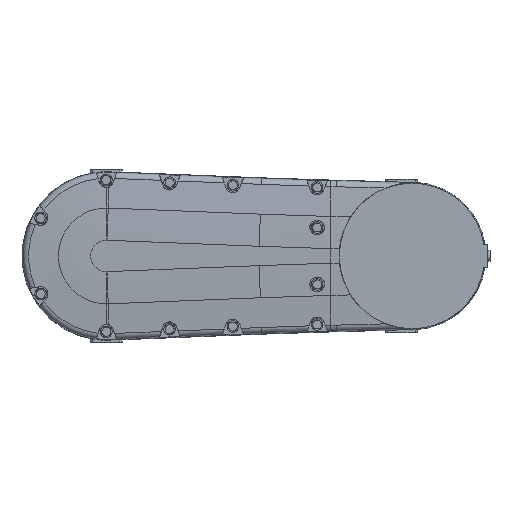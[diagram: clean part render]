
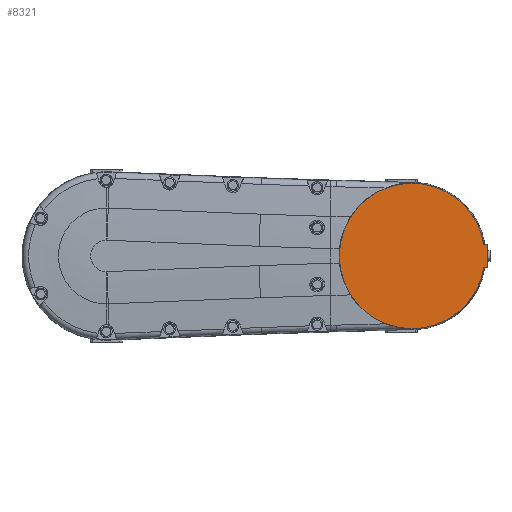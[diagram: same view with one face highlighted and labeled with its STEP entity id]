
A CAD part, top view. The second image highlights one B-rep face of the part: STEP entity #8321.
In plain terms, the highlighted planar face has unit normal (0, 0, 1).
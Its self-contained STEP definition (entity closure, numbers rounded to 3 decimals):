
#169 = AXIS2_PLACEMENT_3D ( 'NONE', #1559, #15618, #2852 ) ;
#866 = ORIENTED_EDGE ( 'NONE', *, *, #3368, .F. ) ;
#1349 = EDGE_CURVE ( 'NONE', #1828, #16387, #5070, .T. ) ;
#1559 = CARTESIAN_POINT ( 'NONE',  ( 290., 0., 278.5 ) ) ;
#1828 = VERTEX_POINT ( 'NONE', #10200 ) ;
#2299 = ORIENTED_EDGE ( 'NONE', *, *, #11760, .T. ) ;
#2387 = VERTEX_POINT ( 'NONE', #5528 ) ;
#2455 = CARTESIAN_POINT ( 'NONE',  ( 0.536, -20.478, 278.5 ) ) ;
#2566 = DIRECTION ( 'NONE',  ( 0., -1., 0. ) ) ;
#2852 = DIRECTION ( 'NONE',  ( 0., -1., 0. ) ) ;
#3368 = EDGE_CURVE ( 'NONE', #16387, #2387, #18335, .T. ) ;
#4242 = CARTESIAN_POINT ( 'NONE',  ( 290., 0., 278.5 ) ) ;
#4337 = DIRECTION ( 'NONE',  ( 0., 0., 1. ) ) ;
#4461 = DIRECTION ( 'NONE',  ( 1., 0., 0. ) ) ;
#4964 = EDGE_CURVE ( 'NONE', #1828, #18220, #17898, .T. ) ;
#5070 = LINE ( 'NONE', #9594, #10790 ) ;
#5528 = CARTESIAN_POINT ( 'NONE',  ( 362., -11.013, 278.5 ) ) ;
#5801 = FACE_OUTER_BOUND ( 'NONE', #10806, .T. ) ;
#7726 = VERTEX_POINT ( 'NONE', #7773 ) ;
#7773 = CARTESIAN_POINT ( 'NONE',  ( 358.104, -11.115, 278.5 ) ) ;
#8226 = CARTESIAN_POINT ( 'NONE',  ( 362., 0., 278.5 ) ) ;
#8321 = ADVANCED_FACE ( 'NONE', ( #5801 ), #16006, .T. ) ;
#8778 = CARTESIAN_POINT ( 'NONE',  ( 290., 69.005, 278.5 ) ) ;
#8810 = EDGE_CURVE ( 'NONE', #18220, #15825, #11242, .T. ) ;
#9558 = CARTESIAN_POINT ( 'NONE',  ( 362., 11.013, 278.5 ) ) ;
#9594 = CARTESIAN_POINT ( 'NONE',  ( 362.5, 11., 278.5 ) ) ;
#9691 = ORIENTED_EDGE ( 'NONE', *, *, #4964, .T. ) ;
#10023 = DIRECTION ( 'NONE',  ( 0., 0., 1. ) ) ;
#10200 = CARTESIAN_POINT ( 'NONE',  ( 358.104, 11.115, 278.5 ) ) ;
#10790 = VECTOR ( 'NONE', #15114, 1000. ) ;
#10806 = EDGE_LOOP ( 'NONE', ( #866, #14594, #9691, #12217, #13449, #2299 ) ) ;
#11242 = CIRCLE ( 'NONE', #169, 69.005 ) ;
#11617 = CARTESIAN_POINT ( 'NONE',  ( 0., 0., 278.5 ) ) ;
#11703 = CARTESIAN_POINT ( 'NONE',  ( 290., 0., 278.5 ) ) ;
#11760 = EDGE_CURVE ( 'NONE', #7726, #2387, #16901, .T. ) ;
#11831 = AXIS2_PLACEMENT_3D ( 'NONE', #11617, #10023, #4461 ) ;
#12217 = ORIENTED_EDGE ( 'NONE', *, *, #8810, .T. ) ;
#12565 = VECTOR ( 'NONE', #13715, 1000. ) ;
#12798 = DIRECTION ( 'NONE',  ( 0., -1., 0. ) ) ;
#13190 = CIRCLE ( 'NONE', #18009, 69.005 ) ;
#13449 = ORIENTED_EDGE ( 'NONE', *, *, #18032, .T. ) ;
#13715 = DIRECTION ( 'NONE',  ( 1., 0.026, 0. ) ) ;
#14265 = AXIS2_PLACEMENT_3D ( 'NONE', #4242, #4337, #12798 ) ;
#14594 = ORIENTED_EDGE ( 'NONE', *, *, #1349, .F. ) ;
#14989 = CARTESIAN_POINT ( 'NONE',  ( 290., -69.005, 278.5 ) ) ;
#15114 = DIRECTION ( 'NONE',  ( 1., -0.026, 0. ) ) ;
#15618 = DIRECTION ( 'NONE',  ( 0., 0., 1. ) ) ;
#15825 = VERTEX_POINT ( 'NONE', #14989 ) ;
#16006 = PLANE ( 'NONE',  #11831 ) ;
#16095 = DIRECTION ( 'NONE',  ( 0., -1., 0. ) ) ;
#16387 = VERTEX_POINT ( 'NONE', #9558 ) ;
#16901 = LINE ( 'NONE', #2455, #12565 ) ;
#17426 = DIRECTION ( 'NONE',  ( 0., 0., 1. ) ) ;
#17555 = VECTOR ( 'NONE', #2566, 1000. ) ;
#17898 = CIRCLE ( 'NONE', #14265, 69.005 ) ;
#18009 = AXIS2_PLACEMENT_3D ( 'NONE', #11703, #17426, #16095 ) ;
#18032 = EDGE_CURVE ( 'NONE', #15825, #7726, #13190, .T. ) ;
#18220 = VERTEX_POINT ( 'NONE', #8778 ) ;
#18335 = LINE ( 'NONE', #8226, #17555 ) ;
